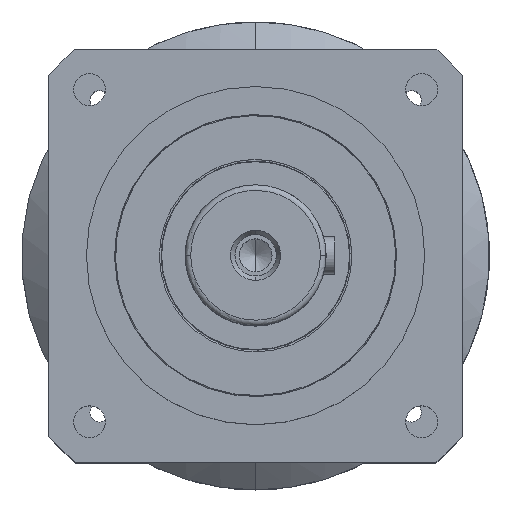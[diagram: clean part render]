
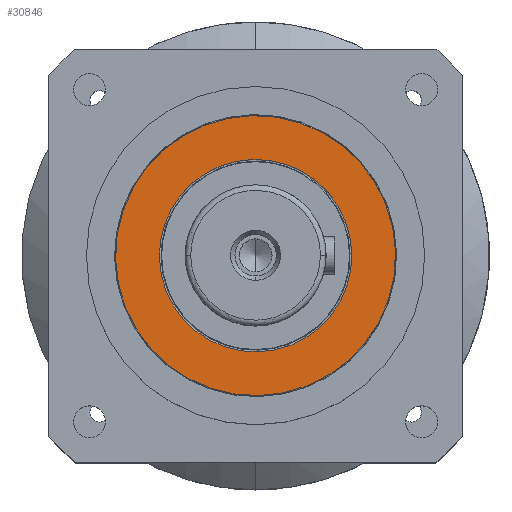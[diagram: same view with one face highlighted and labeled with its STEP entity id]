
A CAD part, top view. The second image highlights one B-rep face of the part: STEP entity #30846.
In plain terms, the highlighted planar face has unit normal (0, 0, 1) as drawn and (0, -1, 0) by its records, which use the part's own axes.
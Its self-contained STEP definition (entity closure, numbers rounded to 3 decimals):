
#20 = DIRECTION ( 'NONE',  ( 0., 0., 1. ) ) ;
#1619 = EDGE_LOOP ( 'NONE', ( #26478, #32971 ) ) ;
#2861 = DIRECTION ( 'NONE',  ( 0., 0., 1. ) ) ;
#6893 = CARTESIAN_POINT ( 'NONE',  ( 0., 0., -51.2 ) ) ;
#7581 = AXIS2_PLACEMENT_3D ( 'NONE', #37531, #18861, #20 ) ;
#8863 = DIRECTION ( 'NONE',  ( 0., 1., 0. ) ) ;
#8976 = CIRCLE ( 'NONE', #24970, 74.5 ) ;
#9329 = ORIENTED_EDGE ( 'NONE', *, *, #25773, .T. ) ;
#10689 = CIRCLE ( 'NONE', #36766, 51.2 ) ;
#11422 = DIRECTION ( 'NONE',  ( 0., 1., 0. ) ) ;
#13414 = EDGE_CURVE ( 'NONE', #18950, #36611, #10689, .T. ) ;
#15449 = CARTESIAN_POINT ( 'NONE',  ( 0., 0., 74.5 ) ) ;
#17608 = VERTEX_POINT ( 'NONE', #27278 ) ;
#18861 = DIRECTION ( 'NONE',  ( 0., -1., 0. ) ) ;
#18950 = VERTEX_POINT ( 'NONE', #28143 ) ;
#19237 = AXIS2_PLACEMENT_3D ( 'NONE', #27670, #8863, #30852 ) ;
#20699 = CIRCLE ( 'NONE', #7581, 74.5 ) ;
#21215 = FACE_BOUND ( 'NONE', #1619, .T. ) ;
#21695 = DIRECTION ( 'NONE',  ( 0., -1., 0. ) ) ;
#21710 = DIRECTION ( 'NONE',  ( 0., 0., -1. ) ) ;
#23933 = EDGE_CURVE ( 'NONE', #36849, #17608, #8976, .T. ) ;
#24078 = CARTESIAN_POINT ( 'NONE',  ( 0., 0., -74.5 ) ) ;
#24970 = AXIS2_PLACEMENT_3D ( 'NONE', #40268, #21695, #2861 ) ;
#25773 = EDGE_CURVE ( 'NONE', #17608, #36849, #20699, .T. ) ;
#26478 = ORIENTED_EDGE ( 'NONE', *, *, #13414, .T. ) ;
#27278 = CARTESIAN_POINT ( 'NONE',  ( 0., 0., 74.5 ) ) ;
#27486 = CIRCLE ( 'NONE', #19237, 51.2 ) ;
#27670 = CARTESIAN_POINT ( 'NONE',  ( 0., 0., 0. ) ) ;
#28143 = CARTESIAN_POINT ( 'NONE',  ( 0., 0., 51.2 ) ) ;
#28604 = FACE_OUTER_BOUND ( 'NONE', #33576, .T. ) ;
#30214 = CARTESIAN_POINT ( 'NONE',  ( 0., 0., 0. ) ) ;
#30846 = ADVANCED_FACE ( 'NONE', ( #21215, #28604 ), #34217, .T. ) ;
#30852 = DIRECTION ( 'NONE',  ( 0., 0., 1. ) ) ;
#32733 = EDGE_CURVE ( 'NONE', #36611, #18950, #27486, .T. ) ;
#32971 = ORIENTED_EDGE ( 'NONE', *, *, #32733, .T. ) ;
#33365 = DIRECTION ( 'NONE',  ( 0., 0., 1. ) ) ;
#33576 = EDGE_LOOP ( 'NONE', ( #9329, #33628 ) ) ;
#33628 = ORIENTED_EDGE ( 'NONE', *, *, #23933, .T. ) ;
#34217 = PLANE ( 'NONE',  #37210 ) ;
#36611 = VERTEX_POINT ( 'NONE', #6893 ) ;
#36766 = AXIS2_PLACEMENT_3D ( 'NONE', #30214, #11422, #33365 ) ;
#36849 = VERTEX_POINT ( 'NONE', #24078 ) ;
#37210 = AXIS2_PLACEMENT_3D ( 'NONE', #15449, #40282, #21710 ) ;
#37531 = CARTESIAN_POINT ( 'NONE',  ( 0., 0., 0. ) ) ;
#40268 = CARTESIAN_POINT ( 'NONE',  ( 0., 0., 0. ) ) ;
#40282 = DIRECTION ( 'NONE',  ( 0., -1., 0. ) ) ;
